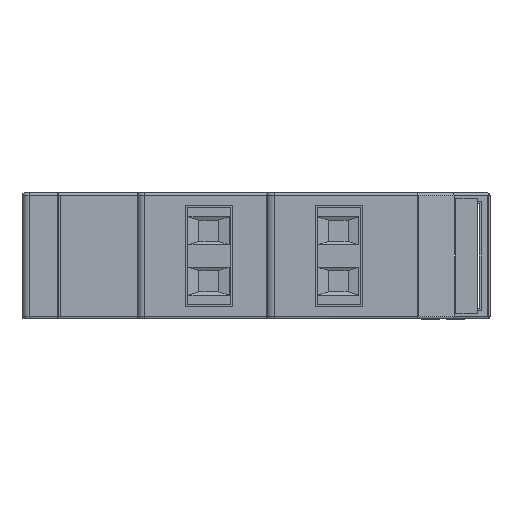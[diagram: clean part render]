
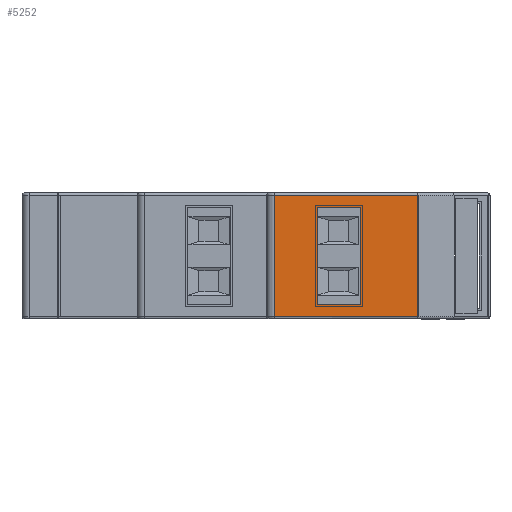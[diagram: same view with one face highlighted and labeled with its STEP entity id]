
A CAD part, left-side view. The second image highlights one B-rep face of the part: STEP entity #5252.
In plain terms, the highlighted planar face has unit normal (-1, 0, 0).
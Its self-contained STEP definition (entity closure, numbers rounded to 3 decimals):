
#5252 = ADVANCED_FACE ( 'NONE', ( #10878, #10863 ), #10880, .F. ) ;
#8201 = EDGE_CURVE ( 'NONE', #33501, #33772, #37380, .T. ) ;
#8217 = EDGE_CURVE ( 'NONE', #16274, #16279, #37501, .T. ) ;
#8227 = EDGE_CURVE ( 'NONE', #33777, #33501, #37546, .T. ) ;
#8381 = EDGE_CURVE ( 'NONE', #33791, #33777, #38626, .T. ) ;
#8398 = EDGE_CURVE ( 'NONE', #33772, #33791, #38810, .T. ) ;
#9578 = AXIS2_PLACEMENT_3D ( 'NONE', #10889, #10890, #10891 ) ;
#10863 = FACE_OUTER_BOUND ( 'NONE', #15534, .T. ) ;
#10878 = FACE_BOUND ( 'NONE', #15643, .T. ) ;
#10880 = PLANE ( 'NONE',  #9578 ) ;
#10889 = CARTESIAN_POINT ( 'NONE',  ( 0., 0., 17.5 ) ) ;
#10890 = DIRECTION ( 'NONE',  ( 1., 0., 0. ) ) ;
#10891 = DIRECTION ( 'NONE',  ( 0., 0., -1. ) ) ;
#15534 = EDGE_LOOP ( 'NONE', ( #17038, #17039, #17040, #17041 ) ) ;
#15643 = EDGE_LOOP ( 'NONE', ( #17034, #17035, #17036, #17037 ) ) ;
#16274 = VERTEX_POINT ( 'NONE', #37359 ) ;
#16275 = VERTEX_POINT ( 'NONE', #37360 ) ;
#16278 = VERTEX_POINT ( 'NONE', #37366 ) ;
#16279 = VERTEX_POINT ( 'NONE', #37368 ) ;
#17034 = ORIENTED_EDGE ( 'NONE', *, *, #18814, .F. ) ;
#17035 = ORIENTED_EDGE ( 'NONE', *, *, #18854, .F. ) ;
#17036 = ORIENTED_EDGE ( 'NONE', *, *, #8217, .F. ) ;
#17037 = ORIENTED_EDGE ( 'NONE', *, *, #18856, .F. ) ;
#17038 = ORIENTED_EDGE ( 'NONE', *, *, #8381, .T. ) ;
#17039 = ORIENTED_EDGE ( 'NONE', *, *, #8227, .T. ) ;
#17040 = ORIENTED_EDGE ( 'NONE', *, *, #8201, .T. ) ;
#17041 = ORIENTED_EDGE ( 'NONE', *, *, #8398, .T. ) ;
#18814 = EDGE_CURVE ( 'NONE', #16278, #16275, #39664, .T. ) ;
#18854 = EDGE_CURVE ( 'NONE', #16279, #16278, #39772, .T. ) ;
#18856 = EDGE_CURVE ( 'NONE', #16275, #16274, #39789, .T. ) ;
#28750 = CARTESIAN_POINT ( 'NONE',  ( 0., 10., 0.3 ) ) ;
#28906 = CARTESIAN_POINT ( 'NONE',  ( 0., 10., 17.2 ) ) ;
#28909 = CARTESIAN_POINT ( 'NONE',  ( 0., 30., 0.3 ) ) ;
#28916 = CARTESIAN_POINT ( 'NONE',  ( 0., 30., 17.2 ) ) ;
#33501 = VERTEX_POINT ( 'NONE', #28750 ) ;
#33772 = VERTEX_POINT ( 'NONE', #28906 ) ;
#33777 = VERTEX_POINT ( 'NONE', #28909 ) ;
#33791 = VERTEX_POINT ( 'NONE', #28916 ) ;
#35335 = VECTOR ( 'NONE', #37397, 1000. ) ;
#35387 = VECTOR ( 'NONE', #37520, 1000. ) ;
#35408 = VECTOR ( 'NONE', #37589, 1000. ) ;
#35832 = VECTOR ( 'NONE', #38697, 1000. ) ;
#35896 = VECTOR ( 'NONE', #38815, 1000. ) ;
#36028 = VECTOR ( 'NONE', #39666, 1000. ) ;
#36145 = VECTOR ( 'NONE', #39785, 1000. ) ;
#36169 = VECTOR ( 'NONE', #39791, 1000. ) ;
#37359 = CARTESIAN_POINT ( 'NONE',  ( 0., 18., 2. ) ) ;
#37360 = CARTESIAN_POINT ( 'NONE',  ( 0., 24., 2. ) ) ;
#37366 = CARTESIAN_POINT ( 'NONE',  ( 0., 24., 15.5 ) ) ;
#37368 = CARTESIAN_POINT ( 'NONE',  ( 0., 18., 15.5 ) ) ;
#37380 = LINE ( 'NONE', #37392, #35335 ) ;
#37392 = CARTESIAN_POINT ( 'NONE',  ( 0., 10., -11.18 ) ) ;
#37397 = DIRECTION ( 'NONE',  ( 0., 0., 1. ) ) ;
#37501 = LINE ( 'NONE', #37515, #35387 ) ;
#37515 = CARTESIAN_POINT ( 'NONE',  ( 0., 18., 15.5 ) ) ;
#37520 = DIRECTION ( 'NONE',  ( 0., 0., 1. ) ) ;
#37546 = LINE ( 'NONE', #37585, #35408 ) ;
#37585 = CARTESIAN_POINT ( 'NONE',  ( 0., 10., 0.3 ) ) ;
#37589 = DIRECTION ( 'NONE',  ( 0., -1., 0. ) ) ;
#38626 = LINE ( 'NONE', #38693, #35832 ) ;
#38693 = CARTESIAN_POINT ( 'NONE',  ( 0., 30., 17.5 ) ) ;
#38697 = DIRECTION ( 'NONE',  ( 0., 0., -1. ) ) ;
#38810 = LINE ( 'NONE', #38813, #35896 ) ;
#38813 = CARTESIAN_POINT ( 'NONE',  ( 0., 0., 17.2 ) ) ;
#38815 = DIRECTION ( 'NONE',  ( 0., 1., 0. ) ) ;
#39664 = LINE ( 'NONE', #39665, #36028 ) ;
#39665 = CARTESIAN_POINT ( 'NONE',  ( 0., 24., 15.5 ) ) ;
#39666 = DIRECTION ( 'NONE',  ( 0., 0., -1. ) ) ;
#39772 = LINE ( 'NONE', #39784, #36145 ) ;
#39784 = CARTESIAN_POINT ( 'NONE',  ( 0., 18., 15.5 ) ) ;
#39785 = DIRECTION ( 'NONE',  ( 0., 1., 0. ) ) ;
#39789 = LINE ( 'NONE', #39790, #36169 ) ;
#39790 = CARTESIAN_POINT ( 'NONE',  ( 0., 18., 2. ) ) ;
#39791 = DIRECTION ( 'NONE',  ( 0., -1., 0. ) ) ;
